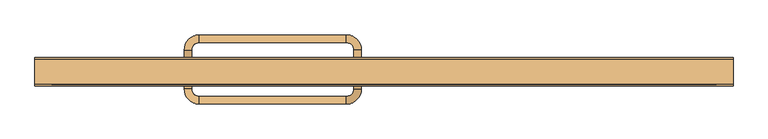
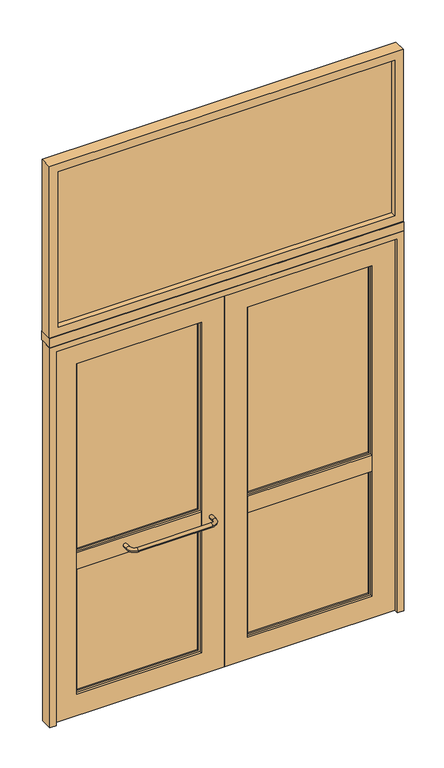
"""IFC4 building model written with IfcOpenShell, lengths in millimetres: door geometry, A1 Puerta batiente doble  VF superior : A1.4 Puerta batiente doble  VF superior 185x310."""

from ifc_helpers import new_model, si_unit, point, frame, origin, place, context, project, spatial, polyline, circle_curve, ellipse_curve, trimmed, outline, extrude, source, transform, mapped, element, save
from ifc_brep_helpers import plane_surface, cylinder_surface, revolved_surface, advanced_brep


def door_487a2fcd(model_context):
    return source(origin(), model_context, "Body", "SolidModel", [
        advanced_brep(
        [(-80.0, -15.5, 855.0), (-60.0, -15.5, 855.0), (-60.0, -45.5, 855.0), (-80.0, -45.5, 855.0), (-100.0, -65.5, 855.0), (-100.0, -85.5, 855.0), (-490.0, -85.5, 855.0), (-490.0, -65.5, 855.0), (-510.0, -45.5, 855.0), (-530.0, -45.5, 855.0), (-510.0, -15.5, 855.0), (-530.0, -15.5, 855.0)],
        [
            (0, 1, circle_curve(frame((-70.0, -15.5, 855.0), z_axis=(0.0, 1.0, 0.0), x_axis=(1.0, 0.0, 0.0)), 10.0)),
            (1, 0, circle_curve(frame((-70.0, -15.5, 855.0), z_axis=(0.0, 1.0, 0.0), x_axis=(1.0, 0.0, 0.0)), 10.0)),
            (1, 2),
            (2, 3, circle_curve(frame((-70.0, -45.5, 855.0), z_axis=(0.0, 1.0, 0.0), x_axis=(1.0, 0.0, 0.0)), 10.0)),
            (3, 0),
            (3, 2, circle_curve(frame((-70.0, -45.5, 855.0), z_axis=(0.0, 1.0, 0.0), x_axis=(1.0, 0.0, 0.0)), 10.0)),
            (4, 3, circle_curve(frame((-100.0, -45.5, 855.0), z_axis=(0.0, 0.0, 1.0), x_axis=(1.0, 0.0, 0.0)), 20.0)),
            (2, 5, circle_curve(frame((-100.0, -45.5, 855.0), z_axis=(0.0, 0.0, -1.0), x_axis=(1.0, 0.0, 0.0)), 40.0)),
            (5, 4, circle_curve(frame((-100.0, -75.5, 855.0), z_axis=(1.0, 0.0, 0.0), x_axis=(0.0, -1.0, 0.0)), 10.0)),
            (4, 5, circle_curve(frame((-100.0, -75.5, 855.0), z_axis=(1.0, 0.0, 0.0), x_axis=(0.0, -1.0, 0.0)), 10.0)),
            (5, 6),
            (6, 7, circle_curve(frame((-490.0, -75.5, 855.0), z_axis=(1.0, 0.0, 0.0), x_axis=(0.0, -1.0, 0.0)), 10.0)),
            (7, 4),
            (7, 6, circle_curve(frame((-490.0, -75.5, 855.0), z_axis=(1.0, 0.0, 0.0), x_axis=(0.0, -1.0, 0.0)), 10.0)),
            (8, 7, circle_curve(frame((-490.0, -45.5, 855.0), z_axis=(0.0, 0.0, 1.0), x_axis=(0.0, -1.0, 0.0)), 20.0)),
            (6, 9, circle_curve(frame((-490.0, -45.5, 855.0), z_axis=(0.0, 0.0, -1.0), x_axis=(0.0, -1.0, 0.0)), 40.0)),
            (9, 8, circle_curve(frame((-520.0, -45.5, 855.0), z_axis=(0.0, -1.0, 0.0), x_axis=(-1.0, 0.0, 0.0)), 10.0)),
            (8, 9, circle_curve(frame((-520.0, -45.5, 855.0), z_axis=(0.0, -1.0, 0.0), x_axis=(-1.0, 0.0, 0.0)), 10.0)),
            (10, 11, circle_curve(frame((-520.0, -15.5, 855.0), z_axis=(0.0, 1.0, 0.0), x_axis=(-1.0, 0.0, 0.0)), 10.0)),
            (11, 10, circle_curve(frame((-520.0, -15.5, 855.0), z_axis=(0.0, 1.0, 0.0), x_axis=(-1.0, 0.0, 0.0)), 10.0)),
            (9, 11),
            (10, 8),
        ],
        [
            plane_surface(frame((-70.0, -15.5, 855.0), z_axis=(0.0, 1.0, 0.0), x_axis=(0.0, 0.0, 1.0))),
            cylinder_surface(frame((-70.0, -15.5, 855.0), z_axis=(0.0, 1.0, 0.0), x_axis=(1.0, 0.0, 0.0)), 10.0),
            revolved_surface(trimmed(ellipse_curve(frame((-70.0, -45.5, 855.0), z_axis=(0.0, 1.0, 0.0), x_axis=(1.0, 0.0, 0.0)), 10.0, 10.0), [point((-60.0, -45.5, 855.0))], [point((-80.0, -45.5, 855.0))], True, "CARTESIAN"), (-100.0, -45.5, 855.0), (0.0, 0.0, -1.0)),
            revolved_surface(trimmed(ellipse_curve(frame((-70.0, -45.5, 855.0), z_axis=(0.0, 1.0, 0.0), x_axis=(1.0, 0.0, 0.0)), 10.0, 10.0), [point((-80.0, -45.5, 855.0))], [point((-60.0, -45.5, 855.0))], True, "CARTESIAN"), (-100.0, -45.5, 855.0), (0.0, 0.0, -1.0)),
            cylinder_surface(frame((-100.0, -75.5, 855.0), z_axis=(1.0, 0.0, 0.0), x_axis=(0.0, -1.0, 0.0)), 10.0),
            revolved_surface(trimmed(ellipse_curve(frame((-490.0, -75.5, 855.0), z_axis=(1.0, 0.0, 0.0), x_axis=(0.0, -1.0, 0.0)), 10.0, 10.0), [point((-490.0, -85.5, 855.0))], [point((-490.0, -65.5, 855.0))], True, "CARTESIAN"), (-490.0, -45.5, 855.0), (0.0, 0.0, -1.0)),
            revolved_surface(trimmed(ellipse_curve(frame((-490.0, -75.5, 855.0), z_axis=(1.0, 0.0, 0.0), x_axis=(0.0, -1.0, 0.0)), 10.0, 10.0), [point((-490.0, -65.5, 855.0))], [point((-490.0, -85.5, 855.0))], True, "CARTESIAN"), (-490.0, -45.5, 855.0), (0.0, 0.0, -1.0)),
            plane_surface(frame((-520.0, -15.5, 855.0), z_axis=(0.0, 1.0, 0.0), x_axis=(0.0, 0.0, 1.0))),
            cylinder_surface(frame((-520.0, -45.5, 855.0), z_axis=(0.0, -1.0, 0.0), x_axis=(-1.0, 0.0, 0.0)), 10.0),
        ],
        [
            (0, [[1, 2]]),
            (1, [[-2, 3, 4, 5]]),
            (1, [[-1, -5, 6, -3]]),
            (2, [[7, -4, 8, 9]]),
            (3, [[-8, -6, -7, 10]]),
            (4, [[-9, 11, 12, 13]]),
            (4, [[-10, -13, 14, -11]]),
            (5, [[15, -12, 16, 17]]),
            (6, [[-16, -14, -15, 18]]),
            (7, [[19, 20]]),
            (8, [[-17, 21, -19, 22]]),
            (8, [[-18, -22, -20, -21]]),
        ],
    ),
        advanced_brep(
        [(-60.0, 28.5, 855.0), (-80.0, 28.5, 855.0), (-60.0, 58.5, 855.0), (-80.0, 58.5, 855.0), (-100.0, 78.5, 855.0), (-100.0, 98.5, 855.0), (-490.0, 98.5, 855.0), (-490.0, 78.5, 855.0), (-510.0, 58.5, 855.0), (-530.0, 58.5, 855.0), (-530.0, 28.5, 855.0), (-510.0, 28.5, 855.0)],
        [
            (0, 1, circle_curve(frame((-70.0, 28.5, 855.0), z_axis=(0.0, -1.0, 0.0), x_axis=(-1.0, 0.0, 0.0)), 10.0)),
            (1, 0, circle_curve(frame((-70.0, 28.5, 855.0), z_axis=(0.0, -1.0, 0.0), x_axis=(-1.0, 0.0, 0.0)), 10.0)),
            (0, 2),
            (2, 3, circle_curve(frame((-70.0, 58.5, 855.0), z_axis=(0.0, -1.0, 0.0), x_axis=(-1.0, 0.0, 0.0)), 10.0)),
            (3, 1),
            (3, 2, circle_curve(frame((-70.0, 58.5, 855.0), z_axis=(0.0, -1.0, 0.0), x_axis=(-1.0, 0.0, 0.0)), 10.0)),
            (4, 3, circle_curve(frame((-100.0, 58.5, 855.0), z_axis=(0.0, 0.0, -1.0), x_axis=(1.0, 0.0, 0.0)), 20.0)),
            (2, 5, circle_curve(frame((-100.0, 58.5, 855.0), z_axis=(0.0, 0.0, 1.0), x_axis=(1.0, 0.0, 0.0)), 40.0)),
            (5, 4, circle_curve(frame((-100.0, 88.5, 855.0), z_axis=(1.0, 0.0, 0.0), x_axis=(0.0, -1.0, 0.0)), 10.0)),
            (4, 5, circle_curve(frame((-100.0, 88.5, 855.0), z_axis=(1.0, 0.0, 0.0), x_axis=(0.0, -1.0, 0.0)), 10.0)),
            (5, 6),
            (6, 7, circle_curve(frame((-490.0, 88.5, 855.0), z_axis=(1.0, 0.0, 0.0), x_axis=(0.0, -1.0, 0.0)), 10.0)),
            (7, 4),
            (7, 6, circle_curve(frame((-490.0, 88.5, 855.0), z_axis=(1.0, 0.0, 0.0), x_axis=(0.0, -1.0, 0.0)), 10.0)),
            (8, 7, circle_curve(frame((-490.0, 58.5, 855.0), z_axis=(0.0, 0.0, -1.0), x_axis=(0.0, 1.0, 0.0)), 20.0)),
            (6, 9, circle_curve(frame((-490.0, 58.5, 855.0), z_axis=(0.0, 0.0, 1.0), x_axis=(0.0, 1.0, 0.0)), 40.0)),
            (9, 8, circle_curve(frame((-520.0, 58.5, 855.0), z_axis=(0.0, 1.0, 0.0), x_axis=(1.0, 0.0, 0.0)), 10.0)),
            (8, 9, circle_curve(frame((-520.0, 58.5, 855.0), z_axis=(0.0, 1.0, 0.0), x_axis=(1.0, 0.0, 0.0)), 10.0)),
            (10, 11, circle_curve(frame((-520.0, 28.5, 855.0), z_axis=(0.0, -1.0, 0.0), x_axis=(1.0, 0.0, 0.0)), 10.0)),
            (11, 10, circle_curve(frame((-520.0, 28.5, 855.0), z_axis=(0.0, -1.0, 0.0), x_axis=(1.0, 0.0, 0.0)), 10.0)),
            (9, 10),
            (11, 8),
        ],
        [
            plane_surface(frame((-70.0, 28.5, 855.0), z_axis=(0.0, -1.0, 0.0), x_axis=(0.0, 0.0, 1.0))),
            cylinder_surface(frame((-70.0, 28.5, 855.0), z_axis=(0.0, -1.0, 0.0), x_axis=(-1.0, 0.0, 0.0)), 10.0),
            revolved_surface(trimmed(ellipse_curve(frame((-70.0, 58.5, 855.0), z_axis=(0.0, -1.0, 0.0), x_axis=(-1.0, 0.0, 0.0)), 10.0, 10.0), [point((-60.0, 58.5, 855.0))], [point((-80.0, 58.5, 855.0))], True, "CARTESIAN"), (-100.0, 58.5, 855.0), (0.0, 0.0, 1.0)),
            revolved_surface(trimmed(ellipse_curve(frame((-70.0, 58.5, 855.0), z_axis=(0.0, -1.0, 0.0), x_axis=(-1.0, 0.0, 0.0)), 10.0, 10.0), [point((-80.0, 58.5, 855.0))], [point((-60.0, 58.5, 855.0))], True, "CARTESIAN"), (-100.0, 58.5, 855.0), (0.0, 0.0, 1.0)),
            cylinder_surface(frame((-100.0, 88.5, 855.0), z_axis=(1.0, 0.0, 0.0), x_axis=(0.0, -1.0, 0.0)), 10.0),
            revolved_surface(trimmed(ellipse_curve(frame((-490.0, 88.5, 855.0), z_axis=(1.0, 0.0, 0.0), x_axis=(0.0, -1.0, 0.0)), 10.0, 10.0), [point((-490.0, 98.5, 855.0))], [point((-490.0, 78.5, 855.0))], True, "CARTESIAN"), (-490.0, 58.5, 855.0), (0.0, 0.0, 1.0)),
            revolved_surface(trimmed(ellipse_curve(frame((-490.0, 88.5, 855.0), z_axis=(1.0, 0.0, 0.0), x_axis=(0.0, -1.0, 0.0)), 10.0, 10.0), [point((-490.0, 78.5, 855.0))], [point((-490.0, 98.5, 855.0))], True, "CARTESIAN"), (-490.0, 58.5, 855.0), (0.0, 0.0, 1.0)),
            plane_surface(frame((-520.0, 28.5, 855.0), z_axis=(0.0, -1.0, 0.0), x_axis=(0.0, 0.0, 1.0))),
            cylinder_surface(frame((-520.0, 58.5, 855.0), z_axis=(0.0, 1.0, 0.0), x_axis=(1.0, 0.0, 0.0)), 10.0),
        ],
        [
            (0, [[1, 2]]),
            (1, [[-1, 3, 4, 5]]),
            (1, [[-2, -5, 6, -3]]),
            (2, [[7, -4, 8, 9]]),
            (3, [[-8, -6, -7, 10]]),
            (4, [[-9, 11, 12, 13]]),
            (4, [[-10, -13, 14, -11]]),
            (5, [[15, -12, 16, 17]]),
            (6, [[-16, -14, -15, 18]]),
            (7, [[19, 20]]),
            (8, [[-17, 21, -20, 22]]),
            (8, [[-18, -22, -19, -21]]),
        ],
    ),
        extrude(outline(polyline([(881.25, -3.0), (-881.25, -3.0), (-881.25, 3.0), (881.25, 3.0), (881.25, -3.0)])), frame((0.0, 0.0, 2195.0), z_axis=(0.0, 0.0, 1.0), x_axis=(1.0, 0.0, 0.0)), (0.0, 0.0, 1.0), 860.0),
        extrude(outline(polyline([(3100.0, -926.25), (2150.0, -926.25), (2150.0, 926.25), (3100.0, 926.25), (3100.0, -926.25)]), holes=[polyline([(3055.0, -881.25), (3055.0, 881.25), (2195.0, 881.25), (2195.0, -881.25), (3055.0, -881.25)])]), frame((0.0, -33.0, 0.0), z_axis=(0.0, 1.0, 0.0), x_axis=(0.0, 0.0, 1.0)), (0.0, 0.0, 1.0), 66.0),
        extrude(outline(polyline([(-130.0, 3.5), (-763.25, 3.5), (-763.25, 9.5), (-130.0, 9.5), (-130.0, 3.5)])), frame((0.0, 0.0, 910.0), z_axis=(0.0, 0.0, 1.0), x_axis=(1.0, 0.0, 0.0)), (0.0, 0.0, 1.0), 1027.0),
        extrude(outline(polyline([(-130.0, 3.5), (-763.25, 3.5), (-763.25, 9.5), (-130.0, 9.5), (-130.0, 3.5)])), frame((0.0, 0.0, 130.0), z_axis=(0.0, 0.0, 1.0), x_axis=(1.0, 0.0, 0.0)), (0.0, 0.0, 1.0), 670.0),
        extrude(outline(polyline([(1947.0, -773.25), (900.0, -773.25), (900.0, -120.0), (1947.0, -120.0), (1947.0, -773.25)]), holes=[polyline([(1937.0, -763.25), (1937.0, -130.0), (910.0, -130.0), (910.0, -763.25), (1937.0, -763.25)])]), frame((0.0, -3.5, 0.0), z_axis=(0.0, 1.0, 0.0), x_axis=(0.0, 0.0, 1.0)), (0.0, 0.0, 1.0), 20.0),
        extrude(outline(polyline([(810.0, -773.25), (120.0, -773.25), (120.0, -120.0), (810.0, -120.0), (810.0, -773.25)]), holes=[polyline([(800.0, -763.25), (800.0, -130.0), (130.0, -130.0), (130.0, -763.25), (800.0, -763.25)])]), frame((0.0, -3.5, 0.0), z_axis=(0.0, 1.0, 0.0), x_axis=(0.0, 0.0, 1.0)), (0.0, 0.0, 1.0), 20.0),
        extrude(outline(polyline([(-120.0, -15.5), (-773.25, -15.5), (-773.25, 28.5), (-120.0, 28.5), (-120.0, -15.5)])), frame((0.0, 0.0, 810.0), z_axis=(0.0, 0.0, 1.0), x_axis=(1.0, 0.0, 0.0)), (0.0, 0.0, 1.0), 90.0),
        extrude(outline(polyline([(2067.0, -893.25), (0.0, -893.25), (0.0, 0.0), (2067.0, 0.0), (2067.0, -893.25)]), holes=[polyline([(1947.0, -773.25), (1947.0, -120.0), (120.0, -120.0), (120.0, -773.25), (1947.0, -773.25)])]), frame((0.0, -15.5, 0.0), z_axis=(0.0, 1.0, 0.0), x_axis=(0.0, 0.0, 1.0)), (0.0, 0.0, 1.0), 44.0),
        extrude(outline(polyline([(763.25, 3.5), (130.0, 3.5), (130.0, 9.5), (763.25, 9.5), (763.25, 3.5)])), frame((0.0, 0.0, 910.0), z_axis=(0.0, 0.0, 1.0), x_axis=(1.0, 0.0, 0.0)), (0.0, 0.0, 1.0), 1027.0),
        extrude(outline(polyline([(763.25, 3.5), (130.0, 3.5), (130.0, 9.5), (763.25, 9.5), (763.25, 3.5)])), frame((0.0, 0.0, 130.0), z_axis=(0.0, 0.0, 1.0), x_axis=(1.0, 0.0, 0.0)), (0.0, 0.0, 1.0), 670.0),
        extrude(outline(polyline([(1947.0, 120.0), (900.0, 120.0), (900.0, 773.25), (1947.0, 773.25), (1947.0, 120.0)]), holes=[polyline([(1937.0, 130.0), (1937.0, 763.25), (910.0, 763.25), (910.0, 130.0), (1937.0, 130.0)])]), frame((0.0, -3.5, 0.0), z_axis=(0.0, 1.0, 0.0), x_axis=(0.0, 0.0, 1.0)), (0.0, 0.0, 1.0), 20.0),
        extrude(outline(polyline([(810.0, 120.0), (120.0, 120.0), (120.0, 773.25), (810.0, 773.25), (810.0, 120.0)]), holes=[polyline([(800.0, 130.0), (800.0, 763.25), (130.0, 763.25), (130.0, 130.0), (800.0, 130.0)])]), frame((0.0, -3.5, 0.0), z_axis=(0.0, 1.0, 0.0), x_axis=(0.0, 0.0, 1.0)), (0.0, 0.0, 1.0), 20.0),
        extrude(outline(polyline([(773.25, -15.5), (120.0, -15.5), (120.0, 28.5), (773.25, 28.5), (773.25, -15.5)])), frame((0.0, 0.0, 810.0), z_axis=(0.0, 0.0, 1.0), x_axis=(1.0, 0.0, 0.0)), (0.0, 0.0, 1.0), 90.0),
        extrude(outline(polyline([(2067.0, 0.0), (0.0, 0.0), (0.0, 893.25), (2067.0, 893.25), (2067.0, 0.0)]), holes=[polyline([(1947.0, 120.0), (1947.0, 773.25), (120.0, 773.25), (120.0, 120.0), (1947.0, 120.0)])]), frame((0.0, -15.5, 0.0), z_axis=(0.0, 1.0, 0.0), x_axis=(0.0, 0.0, 1.0)), (0.0, 0.0, 1.0), 44.0),
        extrude(outline(polyline([(2100.0, 926.25), (2100.0, -926.25), (0.0, -926.25), (0.0, -893.25), (2067.0, -893.25), (2067.0, 893.25), (0.0, 893.25), (0.0, 926.25), (2100.0, 926.25)])), frame((0.0, -37.5, 0.0), z_axis=(0.0, 1.0, 0.0), x_axis=(0.0, 0.0, 1.0)), (0.0, 0.0, 1.0), 66.0),
        extrude(outline(polyline([(926.25, -37.5), (-926.25, -37.5), (-926.25, 37.5), (926.25, 37.5), (926.25, -37.5)])), frame((0.0, 0.0, 2100.0), z_axis=(0.0, 0.0, 1.0), x_axis=(1.0, 0.0, 0.0)), (0.0, 0.0, 1.0), 50.0),
    ])


if __name__ == "__main__":
    model = new_model("IFC4")
    model_context = context("Model", 3, world=origin())
    ifc_project = project(units=[si_unit("LENGTHUNIT", "METRE", prefix="MILLI")], contexts=[model_context])
    site = spatial("IfcSite", under=ifc_project)
    building = spatial("IfcBuilding", under=site)
    placement = place(None, origin())
    door_shape = door_487a2fcd(model_context)
    element("IfcDoor", 1, ObjectType="A1 Puerta batiente doble  VF superior : A1.4 Puerta batiente doble  VF superior 185x310", at=placement, inside=building, context=model_context, shape_type="MappedRepresentation", body=[
        mapped(door_shape, transform((0.0, 0.0, 0.0), x_axis=(1.0, 0.0, 0.0), y_axis=(0.0, 1.0, 0.0), z_axis=(0.0, 0.0, 1.0))),
    ])
    save(model, "model.ifc")
